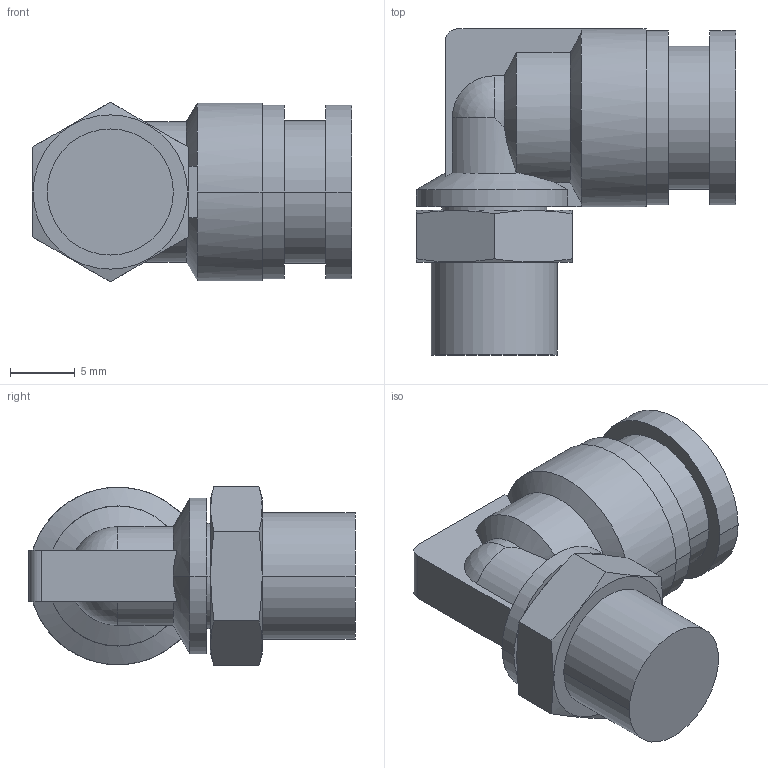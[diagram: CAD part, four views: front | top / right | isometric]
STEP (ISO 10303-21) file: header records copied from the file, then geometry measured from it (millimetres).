
FILE_DESCRIPTION( ( '' ), '1' );
FILE_NAME( 'G:/SMC狟婥/KQ2L08-01AS.stp', '2023-03-07T03:03:36', ( '' ), ( '' ), ' ', ' ', ' ' );
FILE_SCHEMA( ( 'CONFIG_CONTROL_DESIGN' ) );
Length unit declared in the file: millimetre
Products named in the file (1): 1
Bounding box: 24.6 x 25.15 x 13.86 mm (x, y, z)
Volume: 2886.2 mm3; surface area: 2291.2 mm2
Topology: 1 solids, 1 shells, 60 faces, 147 edges, 94 vertices
Faces by surface type: plane 25, cylinder 23, cone 10, sphere 2
Entity records: 1814 total; most frequent: CARTESIAN_POINT 402, DIRECTION 292, ORIENTED_EDGE 290, EDGE_CURVE 145, AXIS2_PLACEMENT_3D 120, VERTEX_POINT 94, EDGE_LOOP 67, ADVANCED_FACE 60
